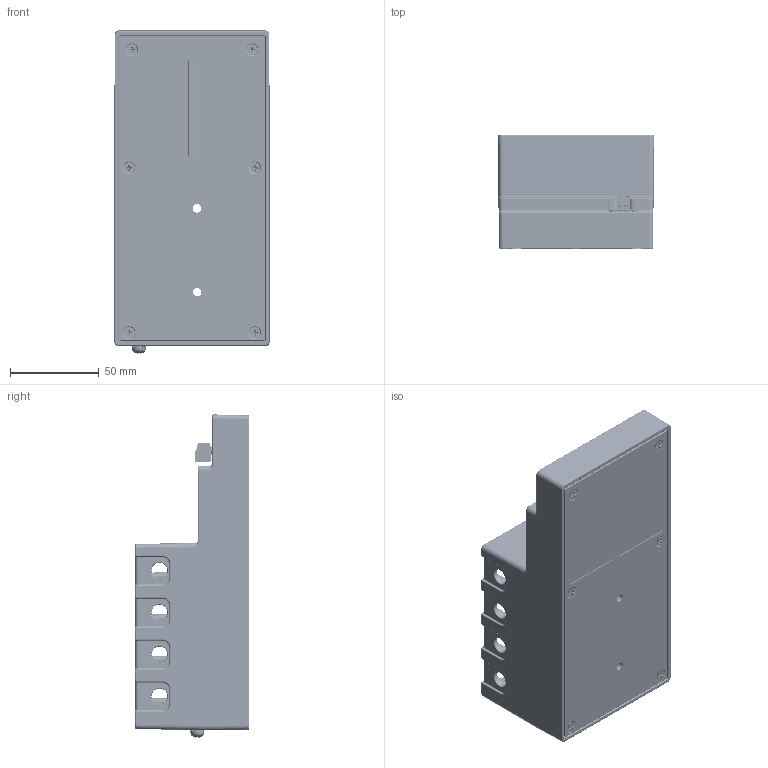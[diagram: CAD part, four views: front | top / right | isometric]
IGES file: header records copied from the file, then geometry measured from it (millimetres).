
Start section:  PTC IGES file: cu_ni9147.igs
Global section: file name: cu_ni9147.igs; native system: Creo Parametric by Parametric Technology Corporation; preprocessor: 2014000; author: kleong; organization: Unknown; date: 20150327.125049; units: inch
Bounding box: 88.1 x 64.33 x 182.2 mm (x, y, z)
Surface area: 144781.7 mm2 (no closed solid volume)
Topology: 0 solids, 0 shells, 5855 faces, 27689 edges, 27646 vertices
Faces by surface type: bspline 3136, revolution 2719
